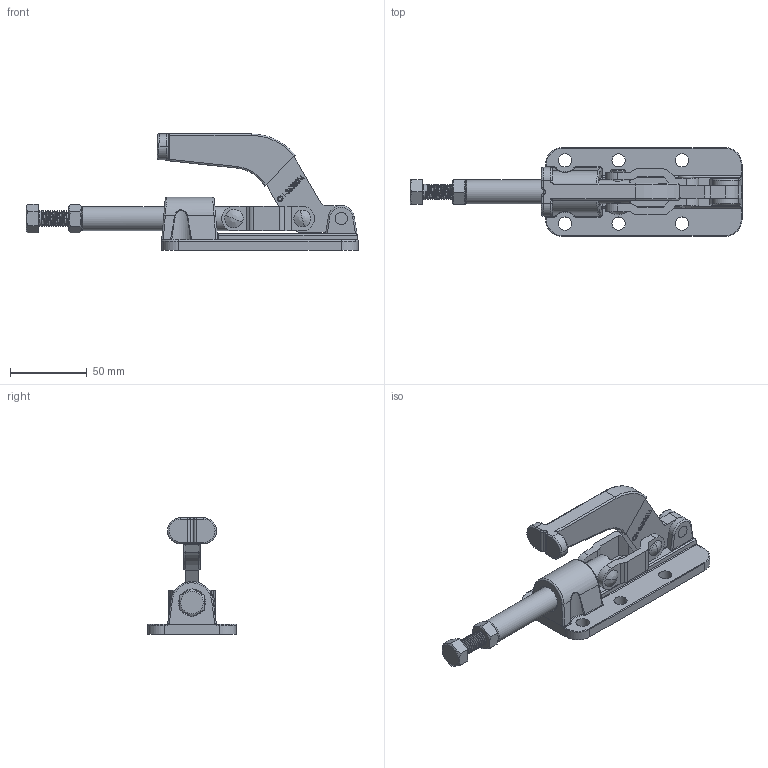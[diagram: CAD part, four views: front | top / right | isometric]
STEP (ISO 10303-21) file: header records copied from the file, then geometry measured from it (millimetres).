
FILE_DESCRIPTION(/* description */ ('STEP AP203'),/* implementation_level */ '2;1');
FILE_NAME(/* name */ 'D:\Vault_2016\Projekty\STRONA\Push-pull clamp\CH-36330M\CH-36330M_ZAMKNIETY.stp',/* time_stamp */ '2019-01-11T11:42:03+01:00',/* author */ ('user'),/* organization */ ('Î¢ÈíÖÐ¹ú'),/* preprocessor_version */ 'ST-DEVELOPER v17.2',/* originating_system */ 'Autodesk Inventor 2019',/* authorisation */ '');
FILE_SCHEMA (('AUTOMOTIVE_DESIGN { 1 0 10303 214 3 1 1 }'));
Products named in the file (11): CH-36330M_ZAMKNIETY; CH-36330M-01 BASE; CH-36330M-02 CREST STALK; M10 Nut; CH-36330M-07; CH-36330M-03 HANDLE; CH-36330M-04 CONNECTING-PLATE; CH-36330M-08; CH-36330M-05; CH-36330M-06; CH-SA-105015 SPINDLE SUPPLIED
Assembly tree (11 placements, depth 2):
  CH-36330M_ZAMKNIETY
    CH-36330M-01 BASE
    CH-36330M-02 CREST STALK
    M10 Nut
    CH-36330M-07
    CH-36330M-03 HANDLE
    CH-36330M-04 CONNECTING-PLATE  x2
    CH-36330M-08
    CH-36330M-05
    CH-36330M-06
    CH-SA-105015 SPINDLE SUPPLIED
Bounding box: 216.4 x 58 x 75.92 mm (x, y, z)
Volume: 140764.1 mm3; surface area: 54649.5 mm2
Topology: 11 solids, 11 shells, 705 faces, 1930 edges, 1271 vertices
Faces by surface type: bspline 252, plane 245, cylinder 163, torus 30, cone 15
Full cylindrical faces by diameter (mm): 1.656 x1, 1.828 x1, 7.4 x2, 8 x12, 8.5 x27, 8.7 x6, 10 x30, 11 x2, 15.7 x2
Entity records: 49830 total; most frequent: CARTESIAN_POINT 33726, ORIENTED_EDGE 3726, DIRECTION 2470, EDGE_CURVE 1863, VERTEX_POINT 1231, LINE 888, VECTOR 888, AXIS2_PLACEMENT_3D 791
